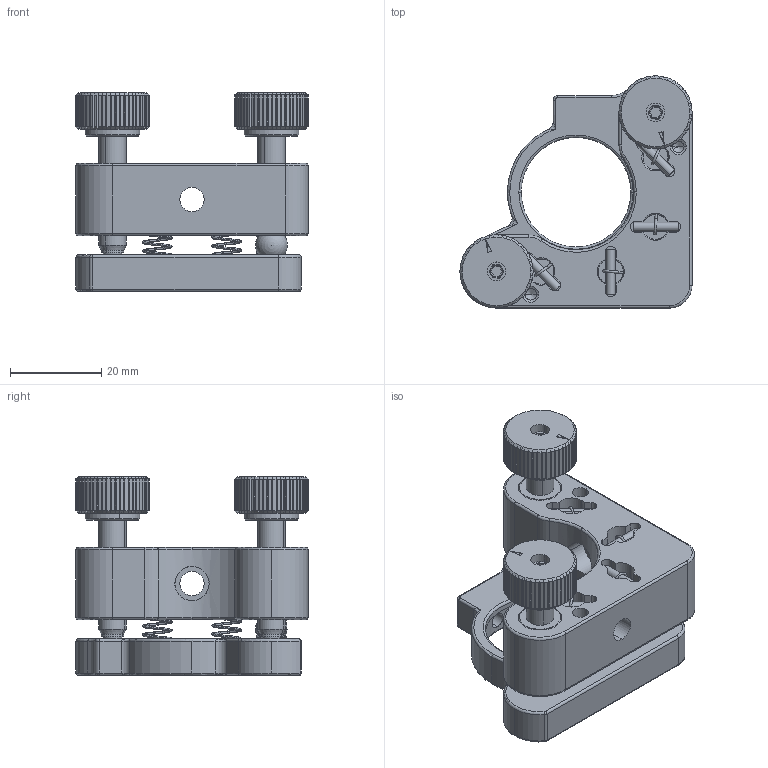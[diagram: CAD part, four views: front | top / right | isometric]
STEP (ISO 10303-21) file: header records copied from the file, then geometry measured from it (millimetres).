
FILE_DESCRIPTION (( 'STEP AP203' ), '1' );
FILE_NAME ('M-TMSO-1R-HOX.STEP', '2020-08-10T07:39:41', ( '匠星' ), ( '' ), 'SwSTEP 2.0', 'SolidWorks 2019', '' );
FILE_SCHEMA (( 'CONFIG_CONTROL_DESIGN' ));
Length unit declared in the file: millimetre
Products named in the file (1): M-TMSO-1R-HOX
Bounding box: 50.8 x 50.8 x 43.5 mm (x, y, z)
Surface area: 16327.4 mm2 (no closed solid volume)
Topology: 0 solids, 17 shells, 873 faces, 2273 edges, 1449 vertices
Faces by surface type: cylinder 395, plane 338, torus 64, cone 36, sphere 22, bspline 18
Entity records: 36571 total; most frequent: CARTESIAN_POINT 16059, ORIENTED_EDGE 4468, DIRECTION 4122, EDGE_CURVE 2240, AXIS2_PLACEMENT_3D 1657, VERTEX_POINT 1442, EDGE_LOOP 936, ADVANCED_FACE 873
